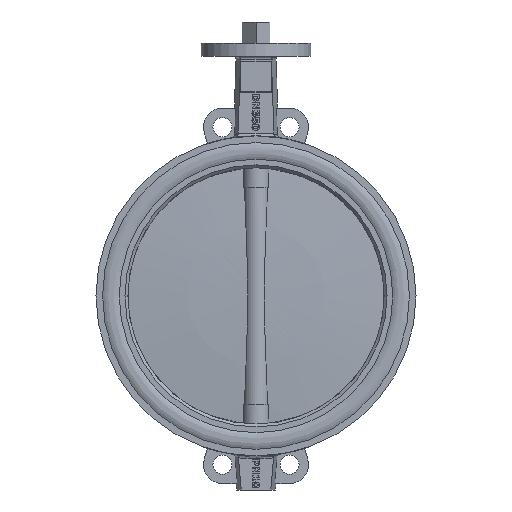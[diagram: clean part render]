
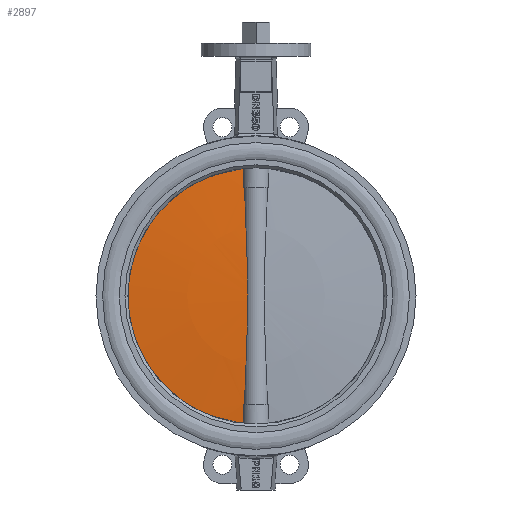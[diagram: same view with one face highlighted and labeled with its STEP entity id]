
A CAD part, left-side view. The second image highlights one B-rep face of the part: STEP entity #2897.
In plain terms, the highlighted spherical face has radius 2045.42 mm.
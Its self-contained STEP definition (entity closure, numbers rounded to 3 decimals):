
#2897=ADVANCED_FACE('',(#6386),#6388,.T.);
#6386=FACE_BOUND('',#6387,.T.);
#6387=EDGE_LOOP('',(#9126,#9127,#9128,#9129,#9130,#9131));
#6388=SPHERICAL_SURFACE('',#6389,2045.417);
#6389=AXIS2_PLACEMENT_3D('',#6390,#6391,#6392);
#6390=CARTESIAN_POINT('',(0.,-2031.917,0.));
#6391=DIRECTION('',(0.,-1.,0.));
#6392=DIRECTION('',(0.,0.,1.));
#9126=ORIENTED_EDGE('',*,*,#10195,.F.);
#9127=ORIENTED_EDGE('',*,*,#10207,.F.);
#9128=ORIENTED_EDGE('',*,*,#10208,.T.);
#9129=ORIENTED_EDGE('',*,*,#10209,.F.);
#9130=ORIENTED_EDGE('',*,*,#10178,.F.);
#9131=ORIENTED_EDGE('',*,*,#10206,.T.);
#10178=EDGE_CURVE('',#11939,#11940,#11941,.F.);
#10195=EDGE_CURVE('',#11972,#11957,#11974,.T.);
#10206=EDGE_CURVE('',#11939,#11957,#11989,.T.);
#10207=EDGE_CURVE('',#11990,#11972,#11991,.T.);
#10208=EDGE_CURVE('',#11990,#11992,#11993,.T.);
#10209=EDGE_CURVE('',#11940,#11992,#11994,.T.);
#11939=VERTEX_POINT('',#17939);
#11940=VERTEX_POINT('',#17940);
#11941=B_SPLINE_CURVE_WITH_KNOTS('',3,
(#17941,#17942,#17943,#17944,#17945,#17946,#17947),
.UNSPECIFIED.,.F.,.F.,
(4,1,1,1,4),
(0.,0.238,0.478,0.733,1.),
.UNSPECIFIED.);
#11957=VERTEX_POINT('',#18067);
#11972=VERTEX_POINT('',#18183);
#11974=B_SPLINE_CURVE_WITH_KNOTS('',3,
(#18188,#18189,#18190,#18191,#18192,#18193,#18194),
.UNSPECIFIED.,.F.,.F.,
(4,1,1,1,4),
(0.,0.238,0.478,0.733,1.),
.UNSPECIFIED.);
#11989=CIRCLE('',#18298,175.);
#11990=VERTEX_POINT('',#18302);
#11991=CIRCLE('',#18303,2040.077);
#11992=VERTEX_POINT('',#18307);
#11993=B_SPLINE_CURVE_WITH_KNOTS('',3,
(#18308,#18309,#18310,#18311,#18312,#18313,#18314,#18315,#18316,#18317,#18318,#18319,
#18320,#18321,#18322,#18323,#18324,#18325,#18326,#18327,#18328,#18329,#18330,#18331,
#18332,#18333,#18334,#18335,#18336,#18337,#18338,#18339,#18340,#18341,#18342,#18343),
.UNSPECIFIED.,.F.,.F.,
(4,1,1,1,1,1,1,1,1,1,1,1,1,1,1,1,1,1,1,1,1,1,1,1,1,1,1,1,1,1,1,1,1,4),
(0.,0.033,0.066,0.098,0.13,0.161,
0.192,0.222,0.252,0.281,0.309,
0.337,0.364,0.391,0.418,0.445,
0.472,0.5,0.5,0.528,0.556,
0.586,0.616,0.647,0.679,0.712,
0.745,0.78,0.815,0.851,0.888,
0.925,0.962,1.),
.UNSPECIFIED.);
#11994=CIRCLE('',#18344,2040.077);
#17939=CARTESIAN_POINT('',(17.526,6.,174.12));
#17940=CARTESIAN_POINT('',(16.664,8.092,147.7));
#17941=CARTESIAN_POINT('',(16.664,8.092,147.7));
#17942=CARTESIAN_POINT('',(16.738,7.94,149.796));
#17943=CARTESIAN_POINT('',(16.885,7.627,154.007));
#17944=CARTESIAN_POINT('',(17.102,7.128,160.461));
#17945=CARTESIAN_POINT('',(17.318,6.587,167.172));
#17946=CARTESIAN_POINT('',(17.457,6.202,171.767));
#17947=CARTESIAN_POINT('',(17.526,6.,174.12));
#18067=CARTESIAN_POINT('',(17.526,6.,-174.12));
#18183=CARTESIAN_POINT('',(16.664,8.092,-147.7));
#18188=CARTESIAN_POINT('',(16.664,8.092,-147.7));
#18189=CARTESIAN_POINT('',(16.738,7.94,-149.796));
#18190=CARTESIAN_POINT('',(16.885,7.627,-154.007));
#18191=CARTESIAN_POINT('',(17.102,7.128,-160.461));
#18192=CARTESIAN_POINT('',(17.318,6.587,-167.172));
#18193=CARTESIAN_POINT('',(17.457,6.202,-171.767));
#18194=CARTESIAN_POINT('',(17.526,6.,-174.12));
#18298=AXIS2_PLACEMENT_3D('',#18299,#18300,#18301);
#18299=CARTESIAN_POINT('',(0.,6.,0.));
#18300=DIRECTION('',(0.,1.,0.));
#18301=DIRECTION('',(0.1,0.,0.995));
#18302=CARTESIAN_POINT('',(15.769,8.099,-147.7));
#18303=AXIS2_PLACEMENT_3D('',#18304,#18305,#18306);
#18304=CARTESIAN_POINT('',(0.,-2031.917,-147.7));
#18305=DIRECTION('',(0.,0.,-1.));
#18306=DIRECTION('',(0.008,1.,0.));
#18307=CARTESIAN_POINT('',(15.769,8.099,147.7));
#18308=CARTESIAN_POINT('',(15.769,8.099,-147.7));
#18309=CARTESIAN_POINT('',(15.648,8.335,-144.464));
#18310=CARTESIAN_POINT('',(15.402,8.788,-138.018));
#18311=CARTESIAN_POINT('',(15.024,9.419,-128.387));
#18312=CARTESIAN_POINT('',(14.644,9.998,-118.862));
#18313=CARTESIAN_POINT('',(14.268,10.527,-109.445));
#18314=CARTESIAN_POINT('',(13.902,11.004,-100.188));
#18315=CARTESIAN_POINT('',(13.552,11.432,-91.093));
#18316=CARTESIAN_POINT('',(13.223,11.811,-82.213));
#18317=CARTESIAN_POINT('',(12.916,12.144,-73.494));
#18318=CARTESIAN_POINT('',(12.636,12.435,-64.951));
#18319=CARTESIAN_POINT('',(12.383,12.686,-56.544));
#18320=CARTESIAN_POINT('',(12.162,12.899,-48.305));
#18321=CARTESIAN_POINT('',(11.971,13.076,-40.177));
#18322=CARTESIAN_POINT('',(11.813,13.219,-32.139));
#18323=CARTESIAN_POINT('',(11.687,13.329,-24.135));
#18324=CARTESIAN_POINT('',(11.596,13.409,-16.141));
#18325=CARTESIAN_POINT('',(11.54,13.457,-8.129));
#18326=CARTESIAN_POINT('',(11.528,13.467,-2.745));
#18327=CARTESIAN_POINT('',(11.527,13.468,2.688));
#18328=CARTESIAN_POINT('',(11.54,13.456,8.248));
#18329=CARTESIAN_POINT('',(11.6,13.405,16.686));
#18330=CARTESIAN_POINT('',(11.703,13.316,25.359));
#18331=CARTESIAN_POINT('',(11.851,13.185,34.3));
#18332=CARTESIAN_POINT('',(12.043,13.009,43.485));
#18333=CARTESIAN_POINT('',(12.282,12.784,52.979));
#18334=CARTESIAN_POINT('',(12.564,12.508,62.693));
#18335=CARTESIAN_POINT('',(12.886,12.177,72.646));
#18336=CARTESIAN_POINT('',(13.243,11.789,82.793));
#18337=CARTESIAN_POINT('',(13.631,11.339,93.201));
#18338=CARTESIAN_POINT('',(14.044,10.825,103.804));
#18339=CARTESIAN_POINT('',(14.473,10.245,114.601));
#18340=CARTESIAN_POINT('',(14.91,9.6,125.528));
#18341=CARTESIAN_POINT('',(15.347,8.887,136.583));
#18342=CARTESIAN_POINT('',(15.63,8.369,143.984));
#18343=CARTESIAN_POINT('',(15.769,8.099,147.7));
#18344=AXIS2_PLACEMENT_3D('',#18345,#18346,#18347);
#18345=CARTESIAN_POINT('',(0.,-2031.917,147.7));
#18346=DIRECTION('',(0.,0.,1.));
#18347=DIRECTION('',(0.008,1.,0.));
